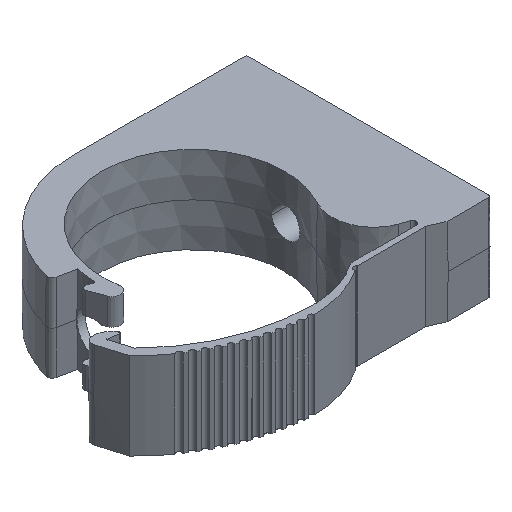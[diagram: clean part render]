
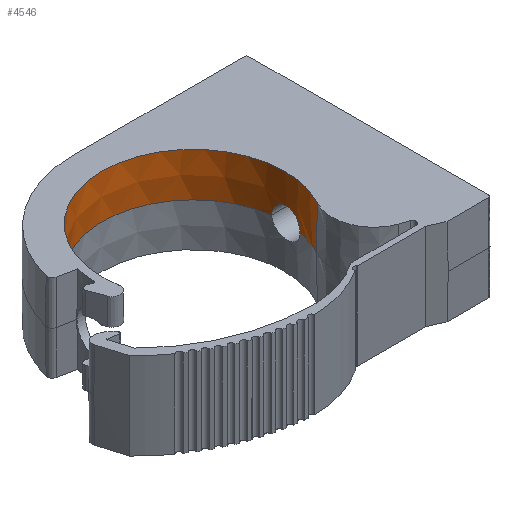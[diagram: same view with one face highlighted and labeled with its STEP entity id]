
A CAD part, isometric view. The second image highlights one B-rep face of the part: STEP entity #4546.
In plain terms, the highlighted conical face has half-angle 0.5 degrees and reference radius 51.751 mm.
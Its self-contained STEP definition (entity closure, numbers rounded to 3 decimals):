
#73=CARTESIAN_POINT('',(50.726,-9.686,-24.67));
#88=CARTESIAN_POINT('',(51.211,6.665,-24.67));
#107=CARTESIAN_POINT('',(0.,0.,-24.67));
#108=DIRECTION('',(0.,0.,-1.));
#109=DIRECTION('',(-0.978,0.207,0.));
#110=AXIS2_PLACEMENT_3D('',#107,#108,#109);
#115=CARTESIAN_POINT('',(0.,0.,-24.67));
#116=DIRECTION('',(0.,0.,-1.));
#117=DIRECTION('',(0.982,-0.188,0.));
#118=AXIS2_PLACEMENT_3D('',#115,#116,#117);
#1224=CARTESIAN_POINT('',(0.,0.,0.));
#1225=DIRECTION('',(0.,0.,1.));
#1226=DIRECTION('',(0.878,-0.478,0.));
#1227=AXIS2_PLACEMENT_3D('',#1224,#1225,#1226);
#1232=CARTESIAN_POINT('',(0.,0.,0.));
#1233=DIRECTION('',(0.,0.,1.));
#1234=DIRECTION('',(1.,0.,0.));
#1235=AXIS2_PLACEMENT_3D('',#1232,#1233,#1234);
#1240=CARTESIAN_POINT('',(0.,0.,0.));
#1241=DIRECTION('',(0.,0.,1.));
#1242=DIRECTION('',(-1.,0.,0.));
#1243=AXIS2_PLACEMENT_3D('',#1240,#1241,#1242);
#1920=DIRECTION('',(-0.008,0.004,-1.));
#1921=VECTOR('',#1920,24.671);
#1922=CARTESIAN_POINT('',(45.556,-24.777,
0.));
#1923=LINE('',#1922,#1921);
#1927=CARTESIAN_POINT('',(-50.528,10.674,
-24.67));
#1928=CARTESIAN_POINT('',(-50.535,10.674,
-23.831));
#1929=CARTESIAN_POINT('',(-50.588,10.499,
-22.151));
#1930=CARTESIAN_POINT('',(-50.766,9.726,
-19.739));
#1931=CARTESIAN_POINT('',(-51.013,8.474,
-17.536));
#1932=CARTESIAN_POINT('',(-51.286,6.788,
-15.63));
#1933=CARTESIAN_POINT('',(-51.532,4.749,
-14.115));
#1934=CARTESIAN_POINT('',(-51.705,2.449,
-13.056));
#1935=CARTESIAN_POINT('',(-51.747,0.821,
-12.683));
#1936=CARTESIAN_POINT('',(-51.748,0.,
-12.58));
#1941=CARTESIAN_POINT('',(-51.748,0.,
-12.58));
#1942=CARTESIAN_POINT('',(-51.749,-0.167,
-12.559));
#1943=CARTESIAN_POINT('',(-51.747,-0.502,
-12.525));
#1944=CARTESIAN_POINT('',(-51.74,-1.006,
-12.493));
#1945=CARTESIAN_POINT('',(-51.732,-1.342,
-12.486));
#1946=CARTESIAN_POINT('',(-51.727,-1.51,
-12.486));
#1951=CARTESIAN_POINT('',(-51.727,-1.51,
-12.486));
#1952=CARTESIAN_POINT('',(-51.702,-2.367,
-12.486));
#1953=CARTESIAN_POINT('',(-51.607,-4.087,
-12.668));
#1954=CARTESIAN_POINT('',(-51.341,-6.566,
-13.482));
#1955=CARTESIAN_POINT('',(-51.101,-8.089,
-14.377));
#1956=CARTESIAN_POINT('',(-50.974,-8.799,
-14.906));
#1961=CARTESIAN_POINT('',(51.211,6.665,-24.67));
#1962=CARTESIAN_POINT('',(51.216,6.665,-24.049));
#1963=CARTESIAN_POINT('',(51.246,6.525,-22.799));
#1964=CARTESIAN_POINT('',(51.344,5.867,-20.977));
#1965=CARTESIAN_POINT('',(51.467,4.834,-19.403));
#1966=CARTESIAN_POINT('',(51.59,3.485,-18.107));
#1967=CARTESIAN_POINT('',(51.686,1.838,-17.13));
#1968=CARTESIAN_POINT('',(51.712,0.623,
-16.753));
#1969=CARTESIAN_POINT('',(51.713,0.,
-16.636));
#1974=CARTESIAN_POINT('',(51.713,0.,
-16.636));
#1975=CARTESIAN_POINT('',(51.714,-0.57,
-16.528));
#1976=CARTESIAN_POINT('',(51.696,-1.743,
-16.435));
#1977=CARTESIAN_POINT('',(51.603,-3.508,
-16.674));
#1978=CARTESIAN_POINT('',(51.451,-5.233,
-17.316));
#1979=CARTESIAN_POINT('',(51.265,-6.728,
-18.294));
#1980=CARTESIAN_POINT('',(51.073,-7.972,
-19.556));
#1981=CARTESIAN_POINT('',(50.898,-8.942,
-21.098));
#1982=CARTESIAN_POINT('',(50.769,-9.555,
-22.864));
#1983=CARTESIAN_POINT('',(50.732,-9.686,
-24.071));
#1984=CARTESIAN_POINT('',(50.726,-9.686,
-24.67));
#2092=CARTESIAN_POINT('',(-50.528,10.674,
-24.67));
#2734=DIRECTION('',(0.009,0.001,-1.));
#2735=VECTOR('',#2734,14.907);
#2736=CARTESIAN_POINT('',(-51.103,-8.821,
0.));
#2737=LINE('',#2736,#2735);
#2975=VERTEX_POINT('',#73);
#2976=VERTEX_POINT('',#88);
#2991=VERTEX_POINT('',#2092);
#2992=CARTESIAN_POINT('',(45.367,-24.675,
-24.67));
#2993=VERTEX_POINT('',#2992);
#3252=CARTESIAN_POINT('',(45.556,-24.777,0.));
#3253=VERTEX_POINT('',#3252);
#3254=CARTESIAN_POINT('',(-51.858,0.,
0.));
#3255=CARTESIAN_POINT('',(-51.103,-8.821,
0.));
#3256=VERTEX_POINT('',#3254);
#3257=VERTEX_POINT('',#3255);
#3258=CARTESIAN_POINT('',(51.858,0.,
0.));
#3259=VERTEX_POINT('',#3258);
#3330=VERTEX_POINT('',#1974);
#3331=VERTEX_POINT('',#1941);
#3332=VERTEX_POINT('',#1946);
#3333=VERTEX_POINT('',#1956);
#4521=CARTESIAN_POINT('',(0.,0.,-12.335));
#4522=DIRECTION('',(0.,0.,1.));
#4523=DIRECTION('',(1.,0.,0.));
#4524=AXIS2_PLACEMENT_3D('',#4521,#4522,#4523);
#4525=CONICAL_SURFACE('',#4524,51.751,0.5);
#4526=ORIENTED_EDGE('',*,*,#3846,.F.);
#4527=ORIENTED_EDGE('',*,*,#3844,.F.);
#4528=ORIENTED_EDGE('',*,*,#3842,.F.);
#4529=ORIENTED_EDGE('',*,*,#4466,.T.);
#4530=ORIENTED_EDGE('',*,*,#3478,.F.);
#4532=ORIENTED_EDGE('',*,*,#4531,.F.);
#4534=ORIENTED_EDGE('',*,*,#4533,.F.);
#4535=ORIENTED_EDGE('',*,*,#3475,.F.);
#4537=ORIENTED_EDGE('',*,*,#4536,.T.);
#4539=ORIENTED_EDGE('',*,*,#4538,.T.);
#4541=ORIENTED_EDGE('',*,*,#4540,.T.);
#4543=ORIENTED_EDGE('',*,*,#4542,.F.);
#4544=EDGE_LOOP('',(#4526,#4527,#4528,#4529,#4530,#4532,#4534,#4535,#4537,#4539,
#4541,#4543));
#4545=FACE_OUTER_BOUND('',#4544,.F.);
#111=CIRCLE('',#110,51.643);
#119=CIRCLE('',#118,51.643);
#1228=CIRCLE('',#1227,51.858);
#1236=CIRCLE('',#1235,51.858);
#1244=CIRCLE('',#1243,51.858);
#1937=B_SPLINE_CURVE_WITH_KNOTS('',3,(#1927,#1928,#1929,#1930,#1931,#1932,#1933,
#1934,#1935,#1936),.UNSPECIFIED.,.F.,.F.,(4,1,1,1,1,1,1,4),(0.,
0.143,0.286,0.429,0.571,
0.714,0.857,1.),.UNSPECIFIED.);
#1947=B_SPLINE_CURVE_WITH_KNOTS('',3,(#1941,#1942,#1943,#1944,#1945,#1946),
.UNSPECIFIED.,.F.,.F.,(4,1,1,4),(0.,0.333,0.667,1.),
.UNSPECIFIED.);
#1957=B_SPLINE_CURVE_WITH_KNOTS('',3,(#1951,#1952,#1953,#1954,#1955,#1956),
.UNSPECIFIED.,.F.,.F.,(4,1,1,4),(0.,0.333,0.667,1.),
.UNSPECIFIED.);
#1970=B_SPLINE_CURVE_WITH_KNOTS('',3,(#1961,#1962,#1963,#1964,#1965,#1966,#1967,
#1968,#1969),.UNSPECIFIED.,.F.,.F.,(4,1,1,1,1,1,4),(0.,0.167,
0.333,0.5,0.667,0.833,1.),
.UNSPECIFIED.);
#1985=B_SPLINE_CURVE_WITH_KNOTS('',3,(#1974,#1975,#1976,#1977,#1978,#1979,#1980,
#1981,#1982,#1983,#1984),.UNSPECIFIED.,.F.,.F.,(4,1,1,1,1,1,1,1,4),(0.,
0.125,0.25,0.375,0.5,0.625,0.75,0.875,1.),.UNSPECIFIED.);
#3475=EDGE_CURVE('',#2991,#2976,#111,.T.);
#3478=EDGE_CURVE('',#2975,#2993,#119,.T.);
#3842=EDGE_CURVE('',#3253,#3259,#1228,.T.);
#3844=EDGE_CURVE('',#3259,#3256,#1236,.T.);
#3846=EDGE_CURVE('',#3256,#3257,#1244,.T.);
#4466=EDGE_CURVE('',#3253,#2993,#1923,.T.);
#4531=EDGE_CURVE('',#3330,#2975,#1985,.T.);
#4533=EDGE_CURVE('',#2976,#3330,#1970,.T.);
#4536=EDGE_CURVE('',#2991,#3331,#1937,.T.);
#4538=EDGE_CURVE('',#3331,#3332,#1947,.T.);
#4540=EDGE_CURVE('',#3332,#3333,#1957,.T.);
#4542=EDGE_CURVE('',#3257,#3333,#2737,.T.);
#4546=ADVANCED_FACE('',(#4545),#4525,.F.);
